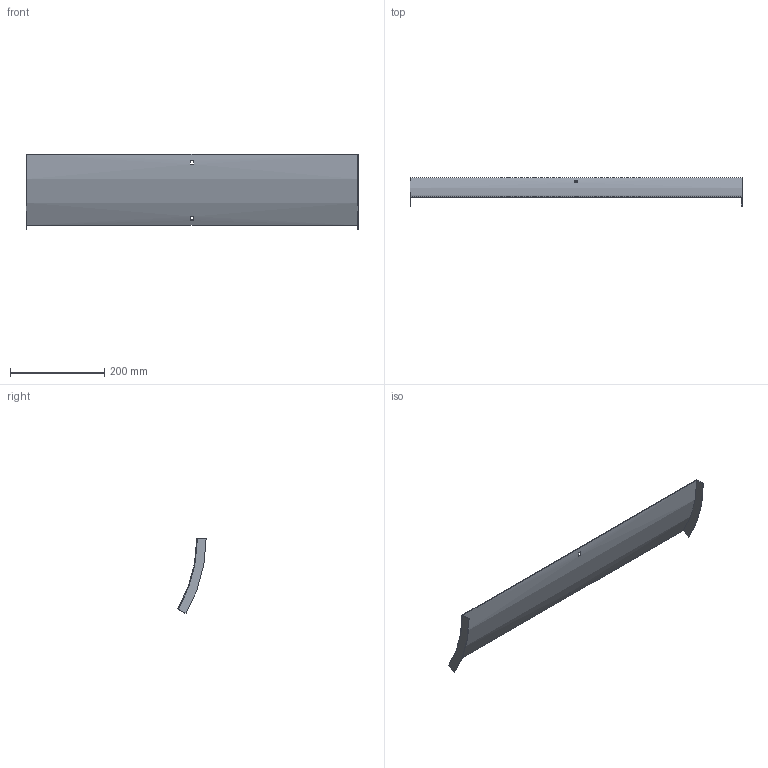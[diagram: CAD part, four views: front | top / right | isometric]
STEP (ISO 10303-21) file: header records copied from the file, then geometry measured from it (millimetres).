
FILE_DESCRIPTION (( 'STEP AP214' ), '1' );
FILE_NAME ('B2X32N3R700X.step', '2025-03-20T09:40:12', ( '' ), ( '' ), 'SwSTEP 2.0', 'SolidWorks 2023', '' );
FILE_SCHEMA (( 'AUTOMOTIVE_DESIGN' ));
Length unit declared in the file: millimetre
Products named in the file (1): B2X32N3R700X
Bounding box: 703 x 59.99 x 159.25 mm (x, y, z)
Volume: 174037.3 mm3; surface area: 234862 mm2
Topology: 1 solids, 1 shells, 18 faces, 48 edges, 32 vertices
Faces by surface type: plane 14, cylinder 4
Entity records: 599 total; most frequent: DIRECTION 102, CARTESIAN_POINT 99, ORIENTED_EDGE 96, EDGE_CURVE 48, AXIS2_PLACEMENT_3D 35, LINE 32, VERTEX_POINT 32, VECTOR 32
